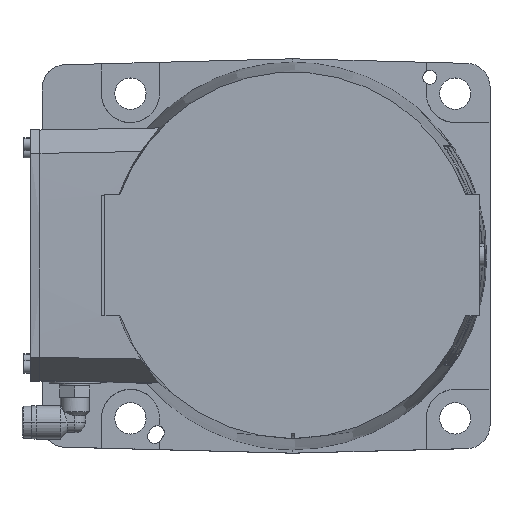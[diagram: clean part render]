
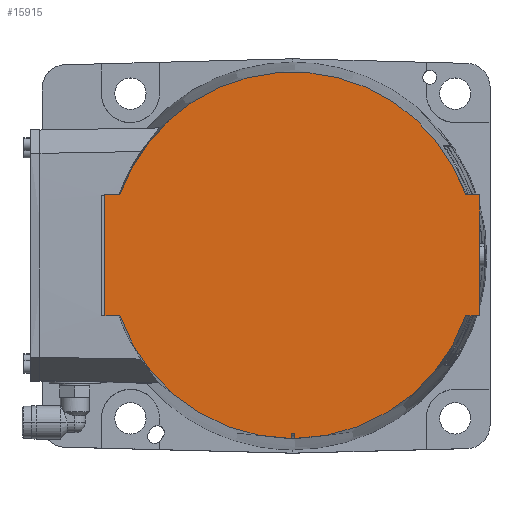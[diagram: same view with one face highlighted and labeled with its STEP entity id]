
A CAD part, top view. The second image highlights one B-rep face of the part: STEP entity #15915.
In plain terms, the highlighted planar face has unit normal (0, 0, 1).
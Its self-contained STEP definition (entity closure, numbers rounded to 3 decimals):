
#431 = VERTEX_POINT ( 'NONE', #6168 ) ;
#570 = VECTOR ( 'NONE', #23602, 1000. ) ;
#1686 = DIRECTION ( 'NONE',  ( 0., 0., -1. ) ) ;
#1872 = AXIS2_PLACEMENT_3D ( 'NONE', #26120, #31996, #34241 ) ;
#1956 = CARTESIAN_POINT ( 'NONE',  ( 0., 0., 191.4 ) ) ;
#1988 = LINE ( 'NONE', #27282, #25211 ) ;
#2224 = CARTESIAN_POINT ( 'NONE',  ( 0.75, -77., 191.4 ) ) ;
#2355 = ORIENTED_EDGE ( 'NONE', *, *, #15558, .F. ) ;
#2663 = VERTEX_POINT ( 'NONE', #19596 ) ;
#2982 = ORIENTED_EDGE ( 'NONE', *, *, #9891, .F. ) ;
#3467 = ORIENTED_EDGE ( 'NONE', *, *, #20261, .F. ) ;
#3579 = VERTEX_POINT ( 'NONE', #8677 ) ;
#4357 = DIRECTION ( 'NONE',  ( -1., -0.017, 0. ) ) ;
#5196 = DIRECTION ( 'NONE',  ( 0., 1., 0. ) ) ;
#5331 = CARTESIAN_POINT ( 'NONE',  ( -0.479, -27.414, 191.4 ) ) ;
#5988 = VERTEX_POINT ( 'NONE', #2224 ) ;
#6168 = CARTESIAN_POINT ( 'NONE',  ( 0.75, -78.984, 191.4 ) ) ;
#6197 = CARTESIAN_POINT ( 'NONE',  ( 0.479, -27.414, 191.4 ) ) ;
#6420 = DIRECTION ( 'NONE',  ( 1., 0.017, 0. ) ) ;
#7172 = DIRECTION ( 'NONE',  ( 0., 1., 0. ) ) ;
#7462 = PLANE ( 'NONE',  #32847 ) ;
#7505 = EDGE_CURVE ( 'NONE', #22090, #16774, #11817, .T. ) ;
#7717 = EDGE_LOOP ( 'NONE', ( #28890, #2355, #22607, #2982, #10256, #34751, #20274, #17325, #3467, #26183, #21427, #34876 ) ) ;
#8677 = CARTESIAN_POINT ( 'NONE',  ( 74.544, -26.121, 191.4 ) ) ;
#8703 = CARTESIAN_POINT ( 'NONE',  ( -81., 26.009, 191.4 ) ) ;
#8777 = EDGE_CURVE ( 'NONE', #431, #5988, #30745, .T. ) ;
#9891 = EDGE_CURVE ( 'NONE', #16774, #2663, #1988, .T. ) ;
#9946 = VERTEX_POINT ( 'NONE', #20306 ) ;
#10256 = ORIENTED_EDGE ( 'NONE', *, *, #7505, .F. ) ;
#10763 = CARTESIAN_POINT ( 'NONE',  ( -0.75, -78.984, 191.4 ) ) ;
#11817 = LINE ( 'NONE', #16425, #13938 ) ;
#11863 = VECTOR ( 'NONE', #4357, 1000. ) ;
#12394 = EDGE_CURVE ( 'NONE', #18795, #5988, #32621, .T. ) ;
#12960 = LINE ( 'NONE', #6197, #14239 ) ;
#13732 = CIRCLE ( 'NONE', #1872, 78.988 ) ;
#13938 = VECTOR ( 'NONE', #19377, 1000. ) ;
#14015 = DIRECTION ( 'NONE',  ( 1., 0., 0. ) ) ;
#14239 = VECTOR ( 'NONE', #6420, 1000. ) ;
#14880 = CARTESIAN_POINT ( 'NONE',  ( -81., 0., 191.4 ) ) ;
#15183 = EDGE_CURVE ( 'NONE', #28787, #18795, #21203, .T. ) ;
#15365 = CARTESIAN_POINT ( 'NONE',  ( 80.5, 26.017, 191.4 ) ) ;
#15397 = LINE ( 'NONE', #14880, #33123 ) ;
#15551 = CARTESIAN_POINT ( 'NONE',  ( -74.544, 26.121, 191.4 ) ) ;
#15558 = EDGE_CURVE ( 'NONE', #3579, #431, #31713, .T. ) ;
#15915 = ADVANCED_FACE ( 'NONE', ( #23305 ), #7462, .F. ) ;
#15931 = DIRECTION ( 'NONE',  ( 0., 1., 0. ) ) ;
#16425 = CARTESIAN_POINT ( 'NONE',  ( 81.5, 26., 191.4 ) ) ;
#16463 = EDGE_CURVE ( 'NONE', #27893, #34591, #32094, .T. ) ;
#16774 = VERTEX_POINT ( 'NONE', #15365 ) ;
#17180 = CARTESIAN_POINT ( 'NONE',  ( -74.544, -26.121, 191.4 ) ) ;
#17325 = ORIENTED_EDGE ( 'NONE', *, *, #22363, .F. ) ;
#17468 = DIRECTION ( 'NONE',  ( 0., -1., 0. ) ) ;
#18003 = VECTOR ( 'NONE', #32101, 1000. ) ;
#18240 = CARTESIAN_POINT ( 'NONE',  ( 0., 0., 191.4 ) ) ;
#18795 = VERTEX_POINT ( 'NONE', #24668 ) ;
#19009 = DIRECTION ( 'NONE',  ( 1., 0., 0. ) ) ;
#19377 = DIRECTION ( 'NONE',  ( 1., -0.017, 0. ) ) ;
#19419 = CARTESIAN_POINT ( 'NONE',  ( 0., 0., 191.4 ) ) ;
#19535 = AXIS2_PLACEMENT_3D ( 'NONE', #18240, #1686, #19009 ) ;
#19596 = CARTESIAN_POINT ( 'NONE',  ( 80.5, -26.017, 191.4 ) ) ;
#19967 = VECTOR ( 'NONE', #15931, 1000. ) ;
#20045 = CIRCLE ( 'NONE', #24959, 78.988 ) ;
#20261 = EDGE_CURVE ( 'NONE', #21782, #9946, #31490, .T. ) ;
#20274 = ORIENTED_EDGE ( 'NONE', *, *, #16463, .T. ) ;
#20306 = CARTESIAN_POINT ( 'NONE',  ( -81., -26.009, 191.4 ) ) ;
#21041 = EDGE_CURVE ( 'NONE', #3579, #2663, #12960, .T. ) ;
#21203 = LINE ( 'NONE', #24434, #19967 ) ;
#21427 = ORIENTED_EDGE ( 'NONE', *, *, #15183, .T. ) ;
#21782 = VERTEX_POINT ( 'NONE', #17180 ) ;
#22090 = VERTEX_POINT ( 'NONE', #24930 ) ;
#22363 = EDGE_CURVE ( 'NONE', #9946, #34591, #15397, .T. ) ;
#22607 = ORIENTED_EDGE ( 'NONE', *, *, #21041, .T. ) ;
#23129 = CARTESIAN_POINT ( 'NONE',  ( -81.5, 26., 191.4 ) ) ;
#23305 = FACE_OUTER_BOUND ( 'NONE', #7717, .T. ) ;
#23535 = DIRECTION ( 'NONE',  ( 1., 0., 0. ) ) ;
#23602 = DIRECTION ( 'NONE',  ( 1., 0., 0. ) ) ;
#24320 = CARTESIAN_POINT ( 'NONE',  ( 0.75, 0., 191.4 ) ) ;
#24434 = CARTESIAN_POINT ( 'NONE',  ( -0.75, 0., 191.4 ) ) ;
#24668 = CARTESIAN_POINT ( 'NONE',  ( -0.75, -77., 191.4 ) ) ;
#24930 = CARTESIAN_POINT ( 'NONE',  ( 74.544, 26.121, 191.4 ) ) ;
#24959 = AXIS2_PLACEMENT_3D ( 'NONE', #19419, #25101, #14015 ) ;
#25101 = DIRECTION ( 'NONE',  ( 0., 0., -1. ) ) ;
#25211 = VECTOR ( 'NONE', #17468, 1000. ) ;
#26120 = CARTESIAN_POINT ( 'NONE',  ( 0., 0., 191.4 ) ) ;
#26183 = ORIENTED_EDGE ( 'NONE', *, *, #26242, .F. ) ;
#26242 = EDGE_CURVE ( 'NONE', #28787, #21782, #13732, .T. ) ;
#27282 = CARTESIAN_POINT ( 'NONE',  ( 80.5, 0., 191.4 ) ) ;
#27893 = VERTEX_POINT ( 'NONE', #15551 ) ;
#28787 = VERTEX_POINT ( 'NONE', #10763 ) ;
#28890 = ORIENTED_EDGE ( 'NONE', *, *, #8777, .F. ) ;
#30745 = LINE ( 'NONE', #24320, #34517 ) ;
#31193 = DIRECTION ( 'NONE',  ( 0., 0., -1. ) ) ;
#31490 = LINE ( 'NONE', #5331, #18003 ) ;
#31713 = CIRCLE ( 'NONE', #19535, 78.988 ) ;
#31996 = DIRECTION ( 'NONE',  ( 0., 0., -1. ) ) ;
#32094 = LINE ( 'NONE', #23129, #11863 ) ;
#32101 = DIRECTION ( 'NONE',  ( -1., 0.017, 0. ) ) ;
#32621 = LINE ( 'NONE', #34777, #570 ) ;
#32847 = AXIS2_PLACEMENT_3D ( 'NONE', #1956, #31193, #23535 ) ;
#33123 = VECTOR ( 'NONE', #7172, 1000. ) ;
#34241 = DIRECTION ( 'NONE',  ( 1., 0., 0. ) ) ;
#34517 = VECTOR ( 'NONE', #5196, 1000. ) ;
#34591 = VERTEX_POINT ( 'NONE', #8703 ) ;
#34751 = ORIENTED_EDGE ( 'NONE', *, *, #34849, .F. ) ;
#34777 = CARTESIAN_POINT ( 'NONE',  ( 0., -77., 191.4 ) ) ;
#34849 = EDGE_CURVE ( 'NONE', #27893, #22090, #20045, .T. ) ;
#34876 = ORIENTED_EDGE ( 'NONE', *, *, #12394, .T. ) ;
